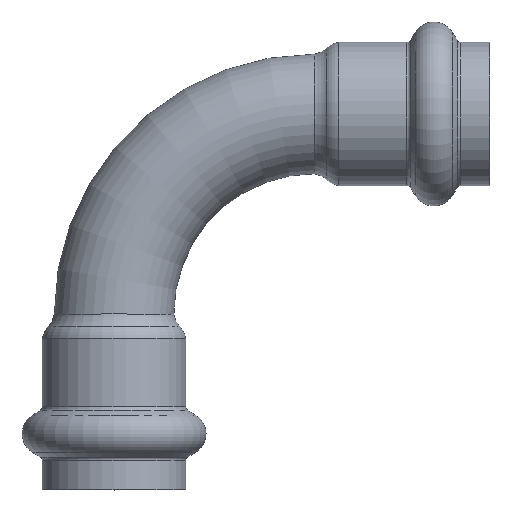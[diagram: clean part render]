
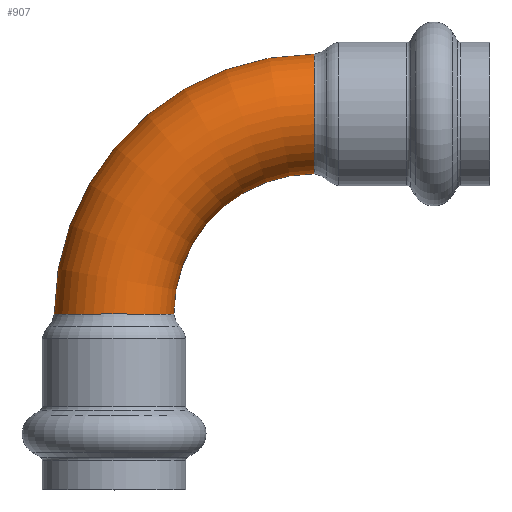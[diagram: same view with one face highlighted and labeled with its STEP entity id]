
A CAD part, top view. The second image highlights one B-rep face of the part: STEP entity #907.
In plain terms, the highlighted toroidal (fillet/blend) face has major radius 35.7 mm and minor radius 10.668 mm.
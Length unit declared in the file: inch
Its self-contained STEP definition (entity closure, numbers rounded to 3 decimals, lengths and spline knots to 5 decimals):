
#125=FACE_OUTER_BOUND('',#164,.T.);
#164=EDGE_LOOP('',(#706,#707,#708,#709,#710,#711,#712,#713));
#188=CIRCLE('',#952,0.42);
#189=CIRCLE('',#953,0.42);
#190=CIRCLE('',#954,0.42);
#241=CIRCLE('',#1022,0.42);
#242=CIRCLE('',#1023,0.42);
#246=CIRCLE('',#1027,0.42);
#256=CIRCLE('',#1041,0.9855);
#308=VERTEX_POINT('',#1496);
#309=VERTEX_POINT('',#1498);
#310=VERTEX_POINT('',#1500);
#355=VERTEX_POINT('',#1623);
#356=VERTEX_POINT('',#1624);
#357=VERTEX_POINT('',#1626);
#414=EDGE_CURVE('',#309,#308,#188,.T.);
#415=EDGE_CURVE('',#310,#309,#189,.T.);
#416=EDGE_CURVE('',#308,#310,#190,.T.);
#476=EDGE_CURVE('',#355,#356,#241,.T.);
#477=EDGE_CURVE('',#357,#355,#242,.T.);
#481=EDGE_CURVE('',#356,#357,#246,.T.);
#492=EDGE_CURVE('',#309,#356,#256,.T.);
#706=ORIENTED_EDGE('',*,*,#415,.T.);
#707=ORIENTED_EDGE('',*,*,#492,.T.);
#708=ORIENTED_EDGE('',*,*,#481,.T.);
#709=ORIENTED_EDGE('',*,*,#477,.T.);
#710=ORIENTED_EDGE('',*,*,#476,.T.);
#711=ORIENTED_EDGE('',*,*,#492,.F.);
#712=ORIENTED_EDGE('',*,*,#414,.T.);
#713=ORIENTED_EDGE('',*,*,#416,.T.);
#838=TOROIDAL_SURFACE('',#1040,1.4055,0.42);
#907=ADVANCED_FACE('',(#125),#838,.T.);
#952=AXIS2_PLACEMENT_3D('',#1499,#1136,#1137);
#953=AXIS2_PLACEMENT_3D('',#1501,#1138,#1139);
#954=AXIS2_PLACEMENT_3D('',#1502,#1140,#1141);
#1022=AXIS2_PLACEMENT_3D('',#1625,#1285,#1286);
#1023=AXIS2_PLACEMENT_3D('',#1627,#1287,#1288);
#1027=AXIS2_PLACEMENT_3D('',#1633,#1295,#1296);
#1040=AXIS2_PLACEMENT_3D('',#1654,#1322,#1323);
#1041=AXIS2_PLACEMENT_3D('',#1655,#1324,#1325);
#1136=DIRECTION('center_axis',(0.,1.,0.));
#1137=DIRECTION('ref_axis',(1.,0.,0.));
#1138=DIRECTION('center_axis',(0.,1.,0.));
#1139=DIRECTION('ref_axis',(1.,0.,0.));
#1140=DIRECTION('center_axis',(0.,1.,0.));
#1141=DIRECTION('ref_axis',(1.,0.,0.));
#1285=DIRECTION('center_axis',(-1.,0.,0.));
#1286=DIRECTION('ref_axis',(0.,-1.,0.));
#1287=DIRECTION('center_axis',(-1.,0.,0.));
#1288=DIRECTION('ref_axis',(0.,-1.,0.));
#1295=DIRECTION('center_axis',(-1.,0.,0.));
#1296=DIRECTION('ref_axis',(0.,-1.,0.));
#1322=DIRECTION('center_axis',(0.,0.,1.));
#1323=DIRECTION('ref_axis',(1.,0.,0.));
#1324=DIRECTION('center_axis',(0.,0.,-1.));
#1325=DIRECTION('ref_axis',(1.,0.,0.));
#1496=CARTESIAN_POINT('',(0.,-1.4055,-0.42));
#1498=CARTESIAN_POINT('',(0.42,-1.4055,0.));
#1499=CARTESIAN_POINT('Origin',(0.,-1.4055,0.));
#1500=CARTESIAN_POINT('',(-0.42,-1.4055,0.));
#1501=CARTESIAN_POINT('Origin',(0.,-1.4055,0.));
#1502=CARTESIAN_POINT('Origin',(0.,-1.4055,0.));
#1623=CARTESIAN_POINT('',(1.4055,0.42,0.));
#1624=CARTESIAN_POINT('',(1.4055,-0.42,0.));
#1625=CARTESIAN_POINT('Origin',(1.4055,0.,0.));
#1626=CARTESIAN_POINT('',(1.4055,0.,0.42));
#1627=CARTESIAN_POINT('Origin',(1.4055,0.,0.));
#1633=CARTESIAN_POINT('Origin',(1.4055,0.,0.));
#1654=CARTESIAN_POINT('Origin',(1.4055,-1.4055,0.));
#1655=CARTESIAN_POINT('Origin',(1.4055,-1.4055,0.));
